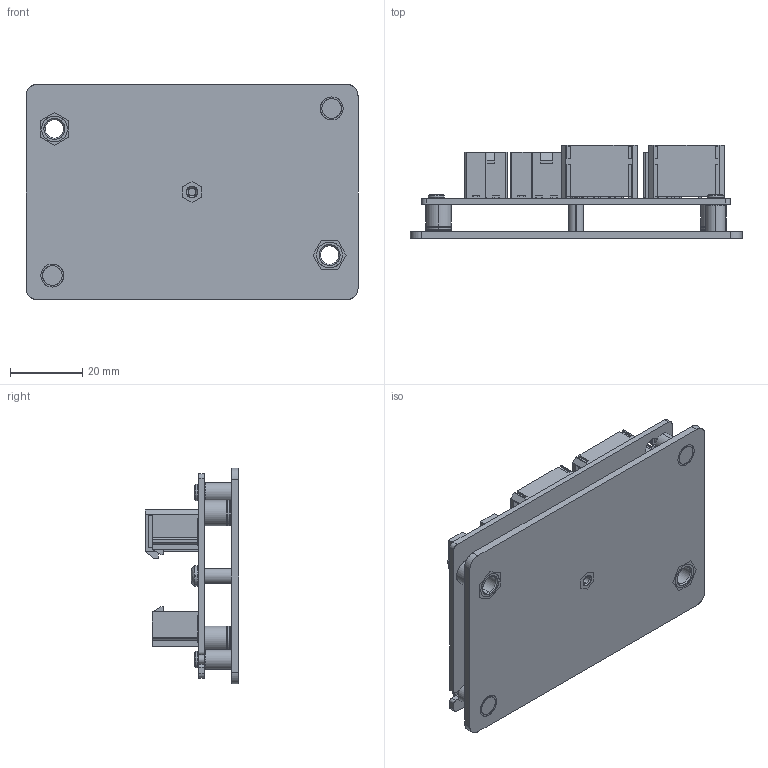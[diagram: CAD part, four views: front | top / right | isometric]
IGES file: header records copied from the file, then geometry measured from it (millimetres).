
Start section: SolidWorks IGES file using analytic representation for surfaces
Global section: file name: C:\TeknicPDM\EtherPath CPM-S\EtherPath CPM-S Customer Files\PWR Customer Models\PWR4-HUB-S.IGS; native system: SolidWorks 2020; preprocessor: SolidWorks 2020; author: mike_berezny; date: 230818.115844; units: inch
Bounding box: 91.95 x 25.87 x 59.69 mm (x, y, z)
Surface area: 35052.3 mm2 (no closed solid volume)
Topology: 0 solids, 0 shells, 1250 faces, 10690 edges, 10678 vertices
Faces by surface type: bspline 1018, revolution 232
